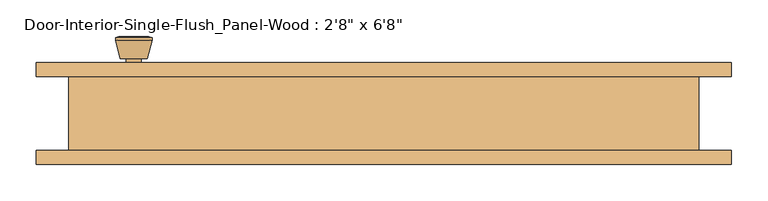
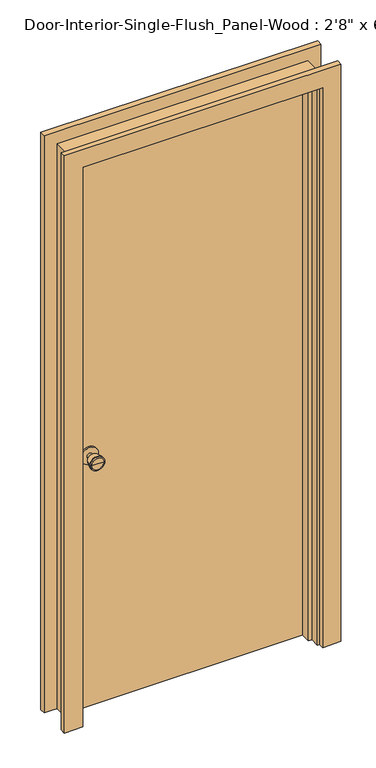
"""IFC4 building model written with IfcOpenShell, lengths in millimetres: door geometry."""

from ifc_helpers import new_model, si_unit, point, frame, frame_2d, origin, origin_with_axes, place, context, project, spatial, polyline, circle_curve, trimmed, segment, composite_curve, outline, extrude, faceted_brep, source, transform, mapped, element, save
from ifc_brep_helpers import plane_surface, cylinder_surface, revolved_surface, advanced_brep


def door_20e234fa(model_context):
    return source(origin(), model_context, "Body", "SolidModel", [
        advanced_brep(
        [(-342.9, 6.7, 914.4), (-332.9, 6.7, 914.4), (-352.9, 6.7, 914.4), (-322.4241324, -42.3, 914.4), (-342.9, -42.3, 914.4), (-363.3758676, -42.3, 914.4), (-317.9, -40.4721319, 914.4), (-367.9, -40.4721319, 914.4), (-317.9, -37.0084537, 914.4), (-367.9, -37.0084537, 914.4), (-324.263764, -12.3, 914.4), (-361.536236, -12.3, 914.4), (-332.9, -12.3, 914.4), (-352.9, -12.3, 914.4)],
        [
            (0, 1),
            (1, 2, circle_curve(frame((-342.9, 6.7, 914.4), z_axis=(0.0, 1.0, 0.0), x_axis=(-1.0, 0.0, 0.0)), 10.0)),
            (2, 0),
            (2, 1, circle_curve(frame((-342.9, 6.7, 914.4), z_axis=(0.0, 1.0, 0.0), x_axis=(-1.0, 0.0, 0.0)), 10.0)),
            (3, 4),
            (4, 5),
            (5, 3, circle_curve(frame((-342.9, -42.3, 914.4), z_axis=(0.0, -1.0, 0.0), x_axis=(-1.0, 0.0, 0.0)), 20.4758676)),
            (3, 5, circle_curve(frame((-342.9, -42.3, 914.4), z_axis=(0.0, -1.0, 0.0), x_axis=(-1.0, 0.0, 0.0)), 20.4758676)),
            (6, 3),
            (5, 7),
            (7, 6, circle_curve(frame((-342.9, -40.4721319, 914.4), z_axis=(0.0, -1.0, 0.0), x_axis=(-1.0, 0.0, 0.0)), 25.0)),
            (6, 7, circle_curve(frame((-342.9, -40.4721319, 914.4), z_axis=(0.0, -1.0, 0.0), x_axis=(-1.0, 0.0, 0.0)), 25.0)),
            (8, 6),
            (7, 9),
            (9, 8, circle_curve(frame((-342.9, -37.0084537, 914.4), z_axis=(0.0, -1.0, 0.0), x_axis=(-1.0, 0.0, 0.0)), 25.0)),
            (8, 9, circle_curve(frame((-342.9, -37.0084537, 914.4), z_axis=(0.0, -1.0, 0.0), x_axis=(-1.0, 0.0, 0.0)), 25.0)),
            (10, 8),
            (9, 11),
            (11, 10, circle_curve(frame((-342.9, -12.3, 914.4), z_axis=(0.0, -1.0, 0.0), x_axis=(-1.0, 0.0, 0.0)), 18.636236)),
            (10, 11, circle_curve(frame((-342.9, -12.3, 914.4), z_axis=(0.0, -1.0, 0.0), x_axis=(-1.0, 0.0, 0.0)), 18.636236)),
            (12, 10),
            (11, 13),
            (13, 12, circle_curve(frame((-342.9, -12.3, 914.4), z_axis=(0.0, -1.0, 0.0), x_axis=(-1.0, 0.0, 0.0)), 10.0)),
            (12, 13, circle_curve(frame((-342.9, -12.3, 914.4), z_axis=(0.0, -1.0, 0.0), x_axis=(-1.0, 0.0, 0.0)), 10.0)),
            (1, 12),
            (13, 2),
        ],
        [
            plane_surface(frame((-342.9, 6.7, 914.4), z_axis=(0.0, 1.0, 0.0), x_axis=(-1.0, 0.0, 0.0))),
            plane_surface(frame((-342.9, -42.3, 914.4), z_axis=(0.0, -1.0, 0.0), x_axis=(-1.0, 0.0, 0.0))),
            revolved_surface(polyline([(-363.3758676, -42.3, 914.4), (-367.9, -40.4721319, 914.4)]), (-342.9, 6.7, 914.4), (0.0, 1.0, 0.0)),
            cylinder_surface(frame((-342.9, 6.7, 914.4), z_axis=(0.0, 1.0, 0.0), x_axis=(-1.0, 0.0, 0.0)), 25.0),
            revolved_surface(polyline([(-367.9, -37.0084537, 914.4), (-361.536236, -12.3, 914.4)]), (-342.9, 6.7, 914.4), (0.0, 1.0, 0.0)),
            plane_surface(frame((-342.9, -12.3, 914.4), z_axis=(0.0, 1.0, 0.0), x_axis=(-1.0, 0.0, 0.0))),
            cylinder_surface(frame((-342.9, 6.7, 914.4), z_axis=(0.0, 1.0, 0.0), x_axis=(-1.0, 0.0, 0.0)), 10.0),
        ],
        [
            (0, [[1, 2, 3]]),
            (0, [[-3, 4, -1]]),
            (1, [[5, 6, 7]]),
            (1, [[-6, -5, 8]]),
            (2, [[9, -7, 10, 11]]),
            (2, [[-10, -8, -9, 12]]),
            (3, [[13, -11, 14, 15]]),
            (3, [[-14, -12, -13, 16]]),
            (4, [[17, -15, 18, 19]]),
            (4, [[-18, -16, -17, 20]]),
            (5, [[21, -19, 22, 23]]),
            (5, [[-22, -20, -21, 24]]),
            (6, [[25, -23, 26, -2]]),
            (6, [[-26, -24, -25, -4]]),
        ],
    ),
        extrude(outline(composite_curve([segment(trimmed(circle_curve(frame_2d((914.4, -342.9)), 30.0), [point((914.4, -372.9))], [point((914.4, -312.9))], False, "CARTESIAN"), True, "CONTINUOUS"), segment(trimmed(circle_curve(frame_2d((914.4, -342.9)), 30.0), [point((914.4, -312.9))], [point((914.4, -372.9))], False, "CARTESIAN"), True, "CONTINUOUS")], self_intersect=False)), frame((0.0, 6.7, 0.0), z_axis=(0.0, 1.0, 0.0), x_axis=(0.0, 0.0, 1.0)), (0.0, 0.0, 1.0), 6.0),
        advanced_brep(
        [(-342.9, 53.625, 914.4), (-352.9, 53.625, 914.4), (-332.9, 53.625, 914.4), (-322.4241324, 102.625, 914.4), (-363.3758676, 102.625, 914.4), (-342.9, 102.625, 914.4), (-317.9, 100.7971319, 914.4), (-367.9, 100.7971319, 914.4), (-317.9, 97.3334537, 914.4), (-367.9, 97.3334537, 914.4), (-324.263764, 72.625, 914.4), (-361.536236, 72.625, 914.4), (-332.9, 72.625, 914.4), (-352.9, 72.625, 914.4)],
        [
            (0, 1),
            (1, 2, circle_curve(frame((-342.9, 53.625, 914.4), z_axis=(0.0, -1.0, 0.0), x_axis=(-1.0, 0.0, 0.0)), 10.0)),
            (2, 0),
            (2, 1, circle_curve(frame((-342.9, 53.625, 914.4), z_axis=(0.0, -1.0, 0.0), x_axis=(-1.0, 0.0, 0.0)), 10.0)),
            (3, 4, circle_curve(frame((-342.9, 102.625, 914.4), z_axis=(0.0, 1.0, 0.0), x_axis=(-1.0, 0.0, 0.0)), 20.4758676)),
            (4, 5),
            (5, 3),
            (4, 3, circle_curve(frame((-342.9, 102.625, 914.4), z_axis=(0.0, 1.0, 0.0), x_axis=(-1.0, 0.0, 0.0)), 20.4758676)),
            (6, 7, circle_curve(frame((-342.9, 100.7971319, 914.4), z_axis=(0.0, 1.0, 0.0), x_axis=(-1.0, 0.0, 0.0)), 25.0)),
            (7, 4),
            (3, 6),
            (7, 6, circle_curve(frame((-342.9, 100.7971319, 914.4), z_axis=(0.0, 1.0, 0.0), x_axis=(-1.0, 0.0, 0.0)), 25.0)),
            (8, 9, circle_curve(frame((-342.9, 97.3334537, 914.4), z_axis=(0.0, 1.0, 0.0), x_axis=(-1.0, 0.0, 0.0)), 25.0)),
            (9, 7),
            (6, 8),
            (9, 8, circle_curve(frame((-342.9, 97.3334537, 914.4), z_axis=(0.0, 1.0, 0.0), x_axis=(-1.0, 0.0, 0.0)), 25.0)),
            (10, 11, circle_curve(frame((-342.9, 72.625, 914.4), z_axis=(0.0, 1.0, 0.0), x_axis=(-1.0, 0.0, 0.0)), 18.636236)),
            (11, 9),
            (8, 10),
            (11, 10, circle_curve(frame((-342.9, 72.625, 914.4), z_axis=(0.0, 1.0, 0.0), x_axis=(-1.0, 0.0, 0.0)), 18.636236)),
            (12, 13, circle_curve(frame((-342.9, 72.625, 914.4), z_axis=(0.0, 1.0, 0.0), x_axis=(-1.0, 0.0, 0.0)), 10.0)),
            (13, 11),
            (10, 12),
            (13, 12, circle_curve(frame((-342.9, 72.625, 914.4), z_axis=(0.0, 1.0, 0.0), x_axis=(-1.0, 0.0, 0.0)), 10.0)),
            (1, 13),
            (12, 2),
        ],
        [
            plane_surface(frame((-342.9, 53.625, 914.4), z_axis=(0.0, -1.0, 0.0), x_axis=(-1.0, 0.0, 0.0))),
            plane_surface(frame((-342.9, 102.625, 914.4), z_axis=(0.0, 1.0, 0.0), x_axis=(-1.0, 0.0, 0.0))),
            revolved_surface(polyline([(-363.3758676, 102.625, 914.4), (-367.9, 100.7971319, 914.4)]), (-342.9, 53.625, 914.4), (0.0, -1.0, 0.0)),
            cylinder_surface(frame((-342.9, 53.625, 914.4), z_axis=(0.0, -1.0, 0.0), x_axis=(-1.0, 0.0, 0.0)), 25.0),
            revolved_surface(polyline([(-367.9, 97.3334537, 914.4), (-361.536236, 72.625, 914.4)]), (-342.9, 53.625, 914.4), (0.0, -1.0, 0.0)),
            plane_surface(frame((-342.9, 72.625, 914.4), z_axis=(0.0, -1.0, 0.0), x_axis=(-1.0, 0.0, 0.0))),
            cylinder_surface(frame((-342.9, 53.625, 914.4), z_axis=(0.0, -1.0, 0.0), x_axis=(-1.0, 0.0, 0.0)), 10.0),
        ],
        [
            (0, [[1, 2, 3]]),
            (0, [[-3, 4, -1]]),
            (1, [[5, 6, 7]]),
            (1, [[8, -7, -6]]),
            (2, [[9, 10, -5, 11]]),
            (2, [[12, -11, -8, -10]]),
            (3, [[13, 14, -9, 15]]),
            (3, [[16, -15, -12, -14]]),
            (4, [[17, 18, -13, 19]]),
            (4, [[20, -19, -16, -18]]),
            (5, [[21, 22, -17, 23]]),
            (5, [[24, -23, -20, -22]]),
            (6, [[-2, 25, -21, 26]]),
            (6, [[-4, -26, -24, -25]]),
        ],
    ),
        extrude(outline(composite_curve([segment(trimmed(circle_curve(frame_2d((914.4, -342.9)), 30.0), [point((914.4, -372.9))], [point((914.4, -312.9))], False, "CARTESIAN"), True, "CONTINUOUS"), segment(trimmed(circle_curve(frame_2d((914.4, -342.9)), 30.0), [point((914.4, -312.9))], [point((914.4, -372.9))], False, "CARTESIAN"), True, "CONTINUOUS")], self_intersect=False)), frame((0.0, 47.625, 0.0), z_axis=(0.0, 1.0, 0.0), x_axis=(0.0, 0.0, 1.0)), (0.0, 0.0, 1.0), 6.0),
        extrude(outline(polyline([(406.4, 12.7), (-406.4, 12.7), (-406.4, 47.625), (406.4, 47.625), (406.4, 12.7)])), origin_with_axes(), (0.0, 0.0, 1.0), 2032.0),
        faceted_brep([(431.8, 47.625, 0.0), (431.8, -53.975, 0.0), (406.4, -53.975, 0.0), (406.4, -22.225, 0.0), (393.7, -22.225, 0.0), (393.7, 12.7, 0.0), (406.4, 12.7, 0.0), (406.4, 47.625, 0.0), (431.8, 47.625, 2057.4), (431.8, -53.975, 2057.4), (-431.8, -53.975, 2057.4), (-431.8, -53.975, 0.0), (-406.4, -53.975, 0.0), (-406.4, -53.975, 2032.0), (406.4, -53.975, 2032.0), (406.4, -22.225, 2032.0), (-406.4, -22.225, 2032.0), (-406.4, -22.225, 0.0), (-393.7, -22.225, 0.0), (-393.7, -22.225, 2019.3), (393.7, -22.225, 2019.3), (393.7, 12.7, 2019.3), (-393.7, 12.7, 2019.3), (-393.7, 12.7, 0.0), (-406.4, 12.7, 0.0), (-406.4, 12.7, 2032.0), (406.4, 12.7, 2032.0), (406.4, 47.625, 2032.0), (-406.4, 47.625, 2032.0), (-406.4, 47.625, 0.0), (-431.8, 47.625, 0.0), (-431.8, 47.625, 2057.4)], [[[0, 1, 2, 3, 4, 5, 6, 7]], [[1, 0, 8, 9]], [[2, 1, 9, 10, 11, 12, 13, 14]], [[3, 2, 14, 15]], [[4, 3, 15, 16, 17, 18, 19, 20]], [[5, 4, 20, 21]], [[6, 5, 21, 22, 23, 24, 25, 26]], [[7, 6, 26, 27]], [[0, 7, 27, 28, 29, 30, 31, 8]], [[9, 8, 31, 10]], [[15, 14, 13, 16]], [[21, 20, 19, 22]], [[27, 26, 25, 28]], [[30, 29, 24, 23, 18, 17, 12, 11]], [[10, 31, 30, 11]], [[16, 13, 12, 17]], [[22, 19, 18, 23]], [[28, 25, 24, 29]]]),
        extrude(outline(polyline([(0.0, 412.75), (0.0, 476.25), (2101.85, 476.25), (2101.85, -476.25), (0.0, -476.25), (0.0, -412.75), (2038.35, -412.75), (2038.35, 412.75), (0.0, 412.75)])), frame((0.0, -73.025, 0.0), z_axis=(0.0, 1.0, 0.0), x_axis=(0.0, 0.0, 1.0)), (0.0, 0.0, 1.0), 19.05),
        extrude(outline(polyline([(0.0, 412.75), (0.0, 476.25), (2101.85, 476.25), (2101.85, -476.25), (0.0, -476.25), (0.0, -412.75), (2038.35, -412.75), (2038.35, 412.75), (0.0, 412.75)])), frame((0.0, 47.625, 0.0), z_axis=(0.0, 1.0, 0.0), x_axis=(0.0, 0.0, 1.0)), (0.0, 0.0, 1.0), 19.05),
    ])


if __name__ == "__main__":
    model = new_model("IFC4")
    model_context = context("Model", 3, world=origin())
    ifc_project = project(units=[si_unit("LENGTHUNIT", "METRE", prefix="MILLI")], contexts=[model_context])
    site = spatial("IfcSite", under=ifc_project)
    building = spatial("IfcBuilding", under=site)
    placement = place(None, origin())
    door_shape = door_20e234fa(model_context)
    element("IfcDoor", 1, ObjectType="Door-Interior-Single-Flush_Panel-Wood : 2'8\" x 6'8\"", at=placement, inside=building, context=model_context, shape_type="MappedRepresentation", body=[
        mapped(door_shape, transform((0.0, 0.0, 0.0), x_axis=(1.0, 0.0, 0.0), y_axis=(0.0, 1.0, 0.0), z_axis=(0.0, 0.0, 1.0))),
    ])
    save(model, "model.ifc")
